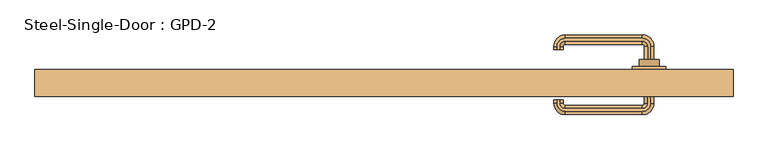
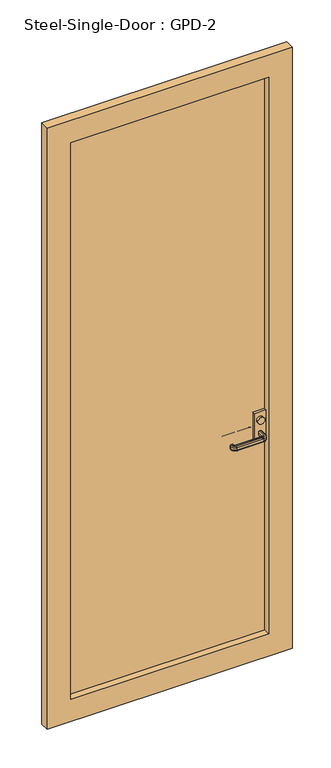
"""IFC4 building model written with IfcOpenShell, lengths in millimetres: door geometry, Steel-Single-Door : GPD-2."""

from ifc_helpers import new_model, si_unit, point, frame, frame_2d, origin, place, context, project, spatial, polyline, circle_curve, ellipse_curve, trimmed, segment, composite_curve, outline, extrude, source, transform, mapped, element, save
from ifc_brep_helpers import plane_surface, cylinder_surface, revolved_surface, advanced_brep


def steel_single_door_gpd_2_abf82ac7(model_context):
    return source(origin(), model_context, "Body", "SolidModel", [
        extrude(outline(composite_curve([segment(trimmed(circle_curve(frame_2d((1060.1793562, 395.0)), 15.0), [point((1060.1793562, 380.0))], [point((1060.1793562, 410.0))], False, "CARTESIAN"), True, "CONTINUOUS"), segment(trimmed(circle_curve(frame_2d((1060.1793562, 395.0)), 15.0), [point((1060.1793562, 410.0))], [point((1060.1793562, 380.0))], False, "CARTESIAN"), True, "CONTINUOUS")], self_intersect=False)), frame((0.0, 55.0, 0.0), z_axis=(0.0, 1.0, 0.0), x_axis=(0.0, 0.0, 1.0)), (0.0, 0.0, 1.0), 10.0),
        extrude(outline(composite_curve([segment(trimmed(circle_curve(frame_2d((1060.1793562, 395.0)), 15.0), [point((1060.1793562, 410.0))], [point((1060.1793562, 380.0))], False, "CARTESIAN"), True, "CONTINUOUS"), segment(trimmed(circle_curve(frame_2d((1060.1793562, 395.0)), 15.0), [point((1060.1793562, 380.0))], [point((1060.1793562, 410.0))], False, "CARTESIAN"), True, "CONTINUOUS")], self_intersect=False)), frame((0.0, 20.0, 0.0), z_axis=(0.0, 1.0, 0.0), x_axis=(0.0, 0.0, 1.0)), (0.0, 0.0, 1.0), 10.0),
        advanced_brep(
        [(397.0, 55.0, 1010.0), (393.0, 55.0, 1010.0), (388.0, 55.0, 1005.0), (388.0, 55.0, 995.0477623), (393.0, 55.0, 990.0477623), (397.0, 55.0, 990.0477623), (402.0, 55.0, 995.0477623), (402.0, 55.0, 1005.0), (402.0, 85.0, 1005.0), (397.0, 85.0, 1010.0), (402.0, 85.0, 995.0477623), (397.0, 85.0, 990.0477623), (393.0, 85.0, 990.0477623), (385.0, 93.0, 990.0477623), (270.0, 93.0, 990.0477623), (262.0, 85.0, 990.0477623), (262.0, 80.0, 990.0477623), (258.0, 80.0, 990.0477623), (258.0, 85.0, 990.0477623), (270.0, 97.0, 990.0477623), (385.0, 97.0, 990.0477623), (388.0, 85.0, 995.0477623), (388.0, 85.0, 1005.0), (393.0, 85.0, 1010.0), (385.0, 97.0, 1010.0), (270.0, 97.0, 1010.0), (258.0, 85.0, 1010.0), (258.0, 80.0, 1010.0), (262.0, 80.0, 1010.0), (262.0, 85.0, 1010.0), (270.0, 93.0, 1010.0), (385.0, 93.0, 1010.0), (385.0, 102.0, 1005.0), (385.0, 102.0, 995.0477623), (385.0, 88.0, 995.0477623), (385.0, 88.0, 1005.0), (270.0, 102.0, 1005.0), (270.0, 102.0, 995.0477623), (270.0, 88.0, 995.0477623), (270.0, 88.0, 1005.0), (253.0, 85.0, 1005.0), (253.0, 85.0, 995.0477623), (267.0, 85.0, 995.0477623), (267.0, 85.0, 1005.0), (253.0, 80.0, 1005.0), (253.0, 80.0, 995.0477623), (267.0, 80.0, 995.0477623), (267.0, 80.0, 1005.0)],
        [
            (0, 1),
            (1, 2, circle_curve(frame((393.0, 55.0, 1005.0), z_axis=(0.0, -1.0, 0.0), x_axis=(1.0, 0.0, 0.0)), 5.0)),
            (2, 3),
            (3, 4, circle_curve(frame((393.0, 55.0, 995.0477623), z_axis=(0.0, -1.0, 0.0), x_axis=(1.0, 0.0, 0.0)), 5.0)),
            (4, 5),
            (5, 6, circle_curve(frame((397.0, 55.0, 995.0477623), z_axis=(0.0, -1.0, 0.0), x_axis=(1.0, 0.0, 0.0)), 5.0)),
            (6, 7),
            (7, 0, circle_curve(frame((397.0, 55.0, 1005.0), z_axis=(0.0, -1.0, 0.0), x_axis=(1.0, 0.0, 0.0)), 5.0)),
            (7, 8),
            (8, 9, circle_curve(frame((397.0, 85.0, 1005.0), z_axis=(0.0, -1.0, 0.0), x_axis=(1.0, 0.0, 0.0)), 5.0)),
            (9, 0),
            (6, 10),
            (10, 8),
            (5, 11),
            (11, 10, circle_curve(frame((397.0, 85.0, 995.0477623), z_axis=(0.0, -1.0, 0.0), x_axis=(1.0, 0.0, 0.0)), 5.0)),
            (4, 12),
            (12, 13, circle_curve(frame((385.0, 85.0, 990.0477623), z_axis=(0.0, 0.0, 1.0), x_axis=(1.0, 0.0, 0.0)), 8.0)),
            (13, 14),
            (14, 15, circle_curve(frame((270.0, 85.0, 990.0477623), z_axis=(0.0, 0.0, 1.0), x_axis=(0.0, 1.0, 0.0)), 8.0)),
            (15, 16),
            (16, 17),
            (17, 18),
            (18, 19, circle_curve(frame((270.0, 85.0, 990.0477623), z_axis=(0.0, 0.0, -1.0), x_axis=(0.0, 1.0, 0.0)), 12.0)),
            (19, 20),
            (20, 11, circle_curve(frame((385.0, 85.0, 990.0477623), z_axis=(0.0, 0.0, -1.0), x_axis=(1.0, 0.0, 0.0)), 12.0)),
            (3, 21),
            (21, 12, circle_curve(frame((393.0, 85.0, 995.0477623), z_axis=(0.0, -1.0, 0.0), x_axis=(1.0, 0.0, 0.0)), 5.0)),
            (2, 22),
            (22, 21),
            (1, 23),
            (23, 22, circle_curve(frame((393.0, 85.0, 1005.0), z_axis=(0.0, -1.0, 0.0), x_axis=(1.0, 0.0, 0.0)), 5.0)),
            (9, 24, circle_curve(frame((385.0, 85.0, 1010.0), z_axis=(0.0, 0.0, 1.0), x_axis=(1.0, 0.0, 0.0)), 12.0)),
            (24, 25),
            (25, 26, circle_curve(frame((270.0, 85.0, 1010.0), z_axis=(0.0, 0.0, 1.0), x_axis=(0.0, 1.0, 0.0)), 12.0)),
            (26, 27),
            (27, 28),
            (28, 29),
            (29, 30, circle_curve(frame((270.0, 85.0, 1010.0), z_axis=(0.0, 0.0, -1.0), x_axis=(0.0, 1.0, 0.0)), 8.0)),
            (30, 31),
            (31, 23, circle_curve(frame((385.0, 85.0, 1010.0), z_axis=(0.0, 0.0, -1.0), x_axis=(1.0, 0.0, 0.0)), 8.0)),
            (32, 24, circle_curve(frame((385.0, 97.0, 1005.0), z_axis=(1.0, 0.0, 0.0), x_axis=(0.0, 1.0, 0.0)), 5.0)),
            (8, 32, circle_curve(frame((385.0, 85.0, 1005.0), z_axis=(0.0, 0.0, 1.0), x_axis=(1.0, 0.0, 0.0)), 17.0)),
            (33, 32),
            (10, 33, circle_curve(frame((385.0, 85.0, 995.0477623), z_axis=(0.0, 0.0, 1.0), x_axis=(1.0, 0.0, 0.0)), 17.0)),
            (20, 33, circle_curve(frame((385.0, 97.0, 995.0477623), z_axis=(1.0, 0.0, 0.0), x_axis=(0.0, 1.0, 0.0)), 5.0)),
            (34, 13, circle_curve(frame((385.0, 93.0, 995.0477623), z_axis=(1.0, 0.0, 0.0), x_axis=(0.0, 1.0, 0.0)), 5.0)),
            (21, 34, circle_curve(frame((385.0, 85.0, 995.0477623), z_axis=(0.0, 0.0, 1.0), x_axis=(1.0, 0.0, 0.0)), 3.0)),
            (35, 34),
            (22, 35, circle_curve(frame((385.0, 85.0, 1005.0), z_axis=(0.0, 0.0, 1.0), x_axis=(1.0, 0.0, 0.0)), 3.0)),
            (31, 35, circle_curve(frame((385.0, 93.0, 1005.0), z_axis=(1.0, 0.0, 0.0), x_axis=(0.0, 1.0, 0.0)), 5.0)),
            (32, 36),
            (36, 25, circle_curve(frame((270.0, 97.0, 1005.0), z_axis=(1.0, 0.0, 0.0), x_axis=(0.0, 1.0, 0.0)), 5.0)),
            (33, 37),
            (37, 36),
            (19, 37, circle_curve(frame((270.0, 97.0, 995.0477623), z_axis=(1.0, 0.0, 0.0), x_axis=(0.0, 1.0, 0.0)), 5.0)),
            (34, 38),
            (38, 14, circle_curve(frame((270.0, 93.0, 995.0477623), z_axis=(1.0, 0.0, 0.0), x_axis=(0.0, 1.0, 0.0)), 5.0)),
            (35, 39),
            (39, 38),
            (30, 39, circle_curve(frame((270.0, 93.0, 1005.0), z_axis=(1.0, 0.0, 0.0), x_axis=(0.0, 1.0, 0.0)), 5.0)),
            (40, 26, circle_curve(frame((258.0, 85.0, 1005.0), z_axis=(0.0, 1.0, 0.0), x_axis=(-1.0, 0.0, 0.0)), 5.0)),
            (36, 40, circle_curve(frame((270.0, 85.0, 1005.0), z_axis=(0.0, 0.0, 1.0), x_axis=(0.0, 1.0, 0.0)), 17.0)),
            (41, 40),
            (37, 41, circle_curve(frame((270.0, 85.0, 995.0477623), z_axis=(0.0, 0.0, 1.0), x_axis=(0.0, 1.0, 0.0)), 17.0)),
            (18, 41, circle_curve(frame((258.0, 85.0, 995.0477623), z_axis=(0.0, 1.0, 0.0), x_axis=(-1.0, 0.0, 0.0)), 5.0)),
            (42, 15, circle_curve(frame((262.0, 85.0, 995.0477623), z_axis=(0.0, 1.0, 0.0), x_axis=(-1.0, 0.0, 0.0)), 5.0)),
            (38, 42, circle_curve(frame((270.0, 85.0, 995.0477623), z_axis=(0.0, 0.0, 1.0), x_axis=(0.0, 1.0, 0.0)), 3.0)),
            (43, 42),
            (39, 43, circle_curve(frame((270.0, 85.0, 1005.0), z_axis=(0.0, 0.0, 1.0), x_axis=(0.0, 1.0, 0.0)), 3.0)),
            (29, 43, circle_curve(frame((262.0, 85.0, 1005.0), z_axis=(0.0, 1.0, 0.0), x_axis=(-1.0, 0.0, 0.0)), 5.0)),
            (27, 44, circle_curve(frame((258.0, 80.0, 1005.0), z_axis=(0.0, -1.0, 0.0), x_axis=(-1.0, 0.0, 0.0)), 5.0)),
            (44, 45),
            (45, 17, circle_curve(frame((258.0, 80.0, 995.0477623), z_axis=(0.0, -1.0, 0.0), x_axis=(-1.0, 0.0, 0.0)), 5.0)),
            (16, 46, circle_curve(frame((262.0, 80.0, 995.0477623), z_axis=(0.0, -1.0, 0.0), x_axis=(-1.0, 0.0, 0.0)), 5.0)),
            (46, 47),
            (47, 28, circle_curve(frame((262.0, 80.0, 1005.0), z_axis=(0.0, -1.0, 0.0), x_axis=(-1.0, 0.0, 0.0)), 5.0)),
            (40, 44),
            (41, 45),
            (42, 46),
            (43, 47),
        ],
        [
            plane_surface(frame((405.198039, 55.0, 1000.0), z_axis=(0.0, -1.0, 0.0), x_axis=(0.0, 0.0, 1.0))),
            cylinder_surface(frame((397.0, 55.0, 1005.0), z_axis=(0.0, -1.0, 0.0), x_axis=(1.0, 0.0, 0.0)), 5.0),
            plane_surface(frame((402.0, 55.0, 1005.0), z_axis=(1.0, 0.0, 0.0), x_axis=(0.0, 1.0, 0.0))),
            cylinder_surface(frame((397.0, 55.0, 995.0477623), z_axis=(0.0, -1.0, 0.0), x_axis=(1.0, 0.0, 0.0)), 5.0),
            plane_surface(frame((397.0, 55.0, 990.0477623), z_axis=(0.0, 0.0, -1.0), x_axis=(0.0, 1.0, 0.0))),
            cylinder_surface(frame((393.0, 55.0, 995.0477623), z_axis=(0.0, -1.0, 0.0), x_axis=(1.0, 0.0, 0.0)), 5.0),
            plane_surface(frame((388.0, 55.0, 995.0477623), z_axis=(-1.0, 0.0, 0.0), x_axis=(0.0, 1.0, 0.0))),
            cylinder_surface(frame((393.0, 55.0, 1005.0), z_axis=(0.0, -1.0, 0.0), x_axis=(1.0, 0.0, 0.0)), 5.0),
            plane_surface(frame((393.0, 55.0, 1010.0), z_axis=(0.0, 0.0, 1.0), x_axis=(0.0, 1.0, 0.0))),
            revolved_surface(trimmed(ellipse_curve(frame((397.0, 85.0, 1005.0), z_axis=(0.0, 1.0, 0.0), x_axis=(1.0, 0.0, 0.0)), 5.0, 5.0), [point((397.0, 85.0, 1010.0))], [point((402.0, 85.0, 1005.0))], True, "CARTESIAN"), (385.0, 85.0, 1000.0), (0.0, 0.0, -1.0)),
            cylinder_surface(frame((385.0, 85.0, 1000.0), z_axis=(0.0, 0.0, -1.0), x_axis=(1.0, 0.0, 0.0)), 17.0),
            revolved_surface(trimmed(ellipse_curve(frame((397.0, 85.0, 995.0477623), z_axis=(0.0, 1.0, 0.0), x_axis=(1.0, 0.0, 0.0)), 5.0, 5.0), [point((402.0, 85.0, 995.0477623))], [point((397.0, 85.0, 990.0477623))], True, "CARTESIAN"), (385.0, 85.0, 1000.0), (0.0, 0.0, -1.0)),
            revolved_surface(trimmed(ellipse_curve(frame((393.0, 85.0, 995.0477623), z_axis=(0.0, 1.0, 0.0), x_axis=(1.0, 0.0, 0.0)), 5.0, 5.0), [point((393.0, 85.0, 990.0477623))], [point((388.0, 85.0, 995.0477623))], True, "CARTESIAN"), (385.0, 85.0, 1000.0), (0.0, 0.0, -1.0)),
            revolved_surface(polyline([(388.0, 85.0, 995.0477623), (388.0, 85.0, 1005.0)]), (385.0, 85.0, 1000.0), (0.0, 0.0, -1.0)),
            revolved_surface(trimmed(ellipse_curve(frame((393.0, 85.0, 1005.0), z_axis=(0.0, 1.0, 0.0), x_axis=(1.0, 0.0, 0.0)), 5.0, 5.0), [point((388.0, 85.0, 1005.0))], [point((393.0, 85.0, 1010.0))], True, "CARTESIAN"), (385.0, 85.0, 1000.0), (0.0, 0.0, -1.0)),
            cylinder_surface(frame((385.0, 97.0, 1005.0), z_axis=(1.0, 0.0, 0.0), x_axis=(0.0, 1.0, 0.0)), 5.0),
            plane_surface(frame((385.0, 102.0, 1005.0), z_axis=(0.0, 1.0, 0.0), x_axis=(-1.0, 0.0, 0.0))),
            cylinder_surface(frame((385.0, 97.0, 995.0477623), z_axis=(1.0, 0.0, 0.0), x_axis=(0.0, 1.0, 0.0)), 5.0),
            cylinder_surface(frame((385.0, 93.0, 995.0477623), z_axis=(1.0, 0.0, 0.0), x_axis=(0.0, 1.0, 0.0)), 5.0),
            plane_surface(frame((385.0, 88.0, 995.0477623), z_axis=(0.0, -1.0, 0.0), x_axis=(-1.0, 0.0, 0.0))),
            cylinder_surface(frame((385.0, 93.0, 1005.0), z_axis=(1.0, 0.0, 0.0), x_axis=(0.0, 1.0, 0.0)), 5.0),
            revolved_surface(trimmed(ellipse_curve(frame((270.0, 97.0, 1005.0), z_axis=(-1.0, 0.0, 0.0), x_axis=(0.0, 1.0, 0.0)), 5.0, 5.0), [point((270.0, 97.0, 1010.0))], [point((270.0, 102.0, 1005.0))], True, "CARTESIAN"), (270.0, 85.0, 1000.0), (0.0, 0.0, -1.0)),
            cylinder_surface(frame((270.0, 85.0, 1000.0), z_axis=(0.0, 0.0, -1.0), x_axis=(0.0, 1.0, 0.0)), 17.0),
            revolved_surface(trimmed(ellipse_curve(frame((270.0, 97.0, 995.0477623), z_axis=(-1.0, 0.0, 0.0), x_axis=(0.0, 1.0, 0.0)), 5.0, 5.0), [point((270.0, 102.0, 995.0477623))], [point((270.0, 97.0, 990.0477623))], True, "CARTESIAN"), (270.0, 85.0, 1000.0), (0.0, 0.0, -1.0)),
            revolved_surface(trimmed(ellipse_curve(frame((270.0, 93.0, 995.0477623), z_axis=(-1.0, 0.0, 0.0), x_axis=(0.0, 1.0, 0.0)), 5.0, 5.0), [point((270.0, 93.0, 990.0477623))], [point((270.0, 88.0, 995.0477623))], True, "CARTESIAN"), (270.0, 85.0, 1000.0), (0.0, 0.0, -1.0)),
            revolved_surface(polyline([(270.0, 88.0, 995.0477623), (270.0, 88.0, 1005.0)]), (270.0, 85.0, 1000.0), (0.0, 0.0, -1.0)),
            revolved_surface(trimmed(ellipse_curve(frame((270.0, 93.0, 1005.0), z_axis=(-1.0, 0.0, 0.0), x_axis=(0.0, 1.0, 0.0)), 5.0, 5.0), [point((270.0, 88.0, 1005.0))], [point((270.0, 93.0, 1010.0))], True, "CARTESIAN"), (270.0, 85.0, 1000.0), (0.0, 0.0, -1.0)),
            plane_surface(frame((270.198039, 80.0, 1000.0), z_axis=(0.0, -1.0, 0.0), x_axis=(0.0, 0.0, -1.0))),
            cylinder_surface(frame((258.0, 85.0, 1005.0), z_axis=(0.0, 1.0, 0.0), x_axis=(-1.0, 0.0, 0.0)), 5.0),
            plane_surface(frame((253.0, 85.0, 1005.0), z_axis=(-1.0, 0.0, 0.0), x_axis=(0.0, -1.0, 0.0))),
            cylinder_surface(frame((258.0, 85.0, 995.0477623), z_axis=(0.0, 1.0, 0.0), x_axis=(-1.0, 0.0, 0.0)), 5.0),
            cylinder_surface(frame((262.0, 85.0, 995.0477623), z_axis=(0.0, 1.0, 0.0), x_axis=(-1.0, 0.0, 0.0)), 5.0),
            plane_surface(frame((267.0, 85.0, 995.0477623), z_axis=(1.0, 0.0, 0.0), x_axis=(0.0, -1.0, 0.0))),
            cylinder_surface(frame((262.0, 85.0, 1005.0), z_axis=(0.0, 1.0, 0.0), x_axis=(-1.0, 0.0, 0.0)), 5.0),
        ],
        [
            (0, [[1, 2, 3, 4, 5, 6, 7, 8]]),
            (1, [[9, 10, 11, -8]]),
            (2, [[12, 13, -9, -7]]),
            (3, [[14, 15, -12, -6]]),
            (4, [[16, 17, 18, 19, 20, 21, 22, 23, 24, 25, -14, -5]]),
            (5, [[26, 27, -16, -4]]),
            (6, [[28, 29, -26, -3]]),
            (7, [[30, 31, -28, -2]]),
            (8, [[-11, 32, 33, 34, 35, 36, 37, 38, 39, 40, -30, -1]]),
            (9, [[41, -32, -10, 42]]),
            (10, [[43, -42, -13, 44]]),
            (11, [[45, -44, -15, -25]]),
            (12, [[46, -17, -27, 47]]),
            (13, [[48, -47, -29, 49]]),
            (14, [[50, -49, -31, -40]]),
            (15, [[51, 52, -33, -41]]),
            (16, [[53, 54, -51, -43]]),
            (17, [[-24, 55, -53, -45]]),
            (18, [[56, 57, -18, -46]]),
            (19, [[58, 59, -56, -48]]),
            (20, [[-39, 60, -58, -50]]),
            (21, [[61, -34, -52, 62]]),
            (22, [[63, -62, -54, 64]]),
            (23, [[65, -64, -55, -23]]),
            (24, [[66, -19, -57, 67]]),
            (25, [[68, -67, -59, 69]]),
            (26, [[70, -69, -60, -38]]),
            (27, [[71, 72, 73, -21, 74, 75, 76, -36]]),
            (28, [[77, -71, -35, -61]]),
            (29, [[78, -72, -77, -63]]),
            (30, [[-22, -73, -78, -65]]),
            (31, [[79, -74, -20, -66]]),
            (32, [[80, -75, -79, -68]]),
            (33, [[-37, -76, -80, -70]]),
        ],
    ),
        advanced_brep(
        [(393.0, 30.0, 990.0), (388.0, 30.0, 995.0), (388.0, 30.0, 1005.0), (393.0, 30.0, 1010.0), (397.0, 30.0, 1010.0), (402.0, 30.0, 1005.0), (402.0, 30.0, 995.0), (397.0, 30.0, 990.0), (397.0, 0.0, 990.0), (385.0, -12.0, 990.0), (270.0, -12.0, 990.0), (258.0, 0.0, 990.0), (258.0, 5.0, 990.0), (262.0, 5.0, 990.0), (262.0, 0.0, 990.0), (270.0, -8.0, 990.0), (385.0, -8.0, 990.0), (393.0, 0.0, 990.0), (402.0, 0.0, 995.0), (402.0, 0.0, 1005.0), (397.0, 0.0, 1010.0), (393.0, 0.0, 1010.0), (385.0, -8.0, 1010.0), (270.0, -8.0, 1010.0), (262.0, 0.0, 1010.0), (262.0, 5.0, 1010.0), (258.0, 5.0, 1010.0), (258.0, 0.0, 1010.0), (270.0, -12.0, 1010.0), (385.0, -12.0, 1010.0), (388.0, 0.0, 1005.0), (388.0, 0.0, 995.0), (385.0, -17.0, 995.0), (385.0, -17.0, 1005.0), (385.0, -3.0, 1005.0), (385.0, -3.0, 995.0), (270.0, -17.0, 995.0), (270.0, -17.0, 1005.0), (270.0, -3.0, 1005.0), (270.0, -3.0, 995.0), (253.0, 0.0, 995.0), (253.0, 0.0, 1005.0), (267.0, 0.0, 1005.0), (267.0, 0.0, 995.0), (253.0, 5.0, 995.0), (253.0, 5.0, 1005.0), (267.0, 5.0, 1005.0), (267.0, 5.0, 995.0)],
        [
            (0, 1, circle_curve(frame((393.0, 30.0, 995.0), z_axis=(0.0, 1.0, 0.0), x_axis=(-1.0, 0.0, 0.0)), 5.0)),
            (1, 2),
            (2, 3, circle_curve(frame((393.0, 30.0, 1005.0), z_axis=(0.0, 1.0, 0.0), x_axis=(-1.0, 0.0, 0.0)), 5.0)),
            (3, 4),
            (4, 5, circle_curve(frame((397.0, 30.0, 1005.0), z_axis=(0.0, 1.0, 0.0), x_axis=(-1.0, 0.0, 0.0)), 5.0)),
            (5, 6),
            (6, 7, circle_curve(frame((397.0, 30.0, 995.0), z_axis=(0.0, 1.0, 0.0), x_axis=(-1.0, 0.0, 0.0)), 5.0)),
            (7, 0),
            (7, 8),
            (8, 9, circle_curve(frame((385.0, 0.0, 990.0), z_axis=(0.0, 0.0, -1.0), x_axis=(1.0, 0.0, 0.0)), 12.0)),
            (9, 10),
            (10, 11, circle_curve(frame((270.0, 0.0, 990.0), z_axis=(0.0, 0.0, -1.0), x_axis=(0.0, -1.0, 0.0)), 12.0)),
            (11, 12),
            (12, 13),
            (13, 14),
            (14, 15, circle_curve(frame((270.0, 0.0, 990.0), z_axis=(0.0, 0.0, 1.0), x_axis=(0.0, -1.0, 0.0)), 8.0)),
            (15, 16),
            (16, 17, circle_curve(frame((385.0, 0.0, 990.0), z_axis=(0.0, 0.0, 1.0), x_axis=(1.0, 0.0, 0.0)), 8.0)),
            (17, 0),
            (6, 18),
            (18, 8, circle_curve(frame((397.0, 0.0, 995.0), z_axis=(0.0, 1.0, 0.0), x_axis=(-1.0, 0.0, 0.0)), 5.0)),
            (5, 19),
            (19, 18),
            (4, 20),
            (20, 19, circle_curve(frame((397.0, 0.0, 1005.0), z_axis=(0.0, 1.0, 0.0), x_axis=(-1.0, 0.0, 0.0)), 5.0)),
            (3, 21),
            (21, 22, circle_curve(frame((385.0, 0.0, 1010.0), z_axis=(0.0, 0.0, -1.0), x_axis=(1.0, 0.0, 0.0)), 8.0)),
            (22, 23),
            (23, 24, circle_curve(frame((270.0, 0.0, 1010.0), z_axis=(0.0, 0.0, -1.0), x_axis=(0.0, -1.0, 0.0)), 8.0)),
            (24, 25),
            (25, 26),
            (26, 27),
            (27, 28, circle_curve(frame((270.0, 0.0, 1010.0), z_axis=(0.0, 0.0, 1.0), x_axis=(0.0, -1.0, 0.0)), 12.0)),
            (28, 29),
            (29, 20, circle_curve(frame((385.0, 0.0, 1010.0), z_axis=(0.0, 0.0, 1.0), x_axis=(1.0, 0.0, 0.0)), 12.0)),
            (2, 30),
            (30, 21, circle_curve(frame((393.0, 0.0, 1005.0), z_axis=(0.0, 1.0, 0.0), x_axis=(-1.0, 0.0, 0.0)), 5.0)),
            (1, 31),
            (31, 30),
            (17, 31, circle_curve(frame((393.0, 0.0, 995.0), z_axis=(0.0, 1.0, 0.0), x_axis=(-1.0, 0.0, 0.0)), 5.0)),
            (32, 9, circle_curve(frame((385.0, -12.0, 995.0), z_axis=(1.0, 0.0, 0.0), x_axis=(0.0, 1.0, 0.0)), 5.0)),
            (18, 32, circle_curve(frame((385.0, 0.0, 995.0), z_axis=(0.0, 0.0, -1.0), x_axis=(1.0, 0.0, 0.0)), 17.0)),
            (33, 32),
            (19, 33, circle_curve(frame((385.0, 0.0, 1005.0), z_axis=(0.0, 0.0, -1.0), x_axis=(1.0, 0.0, 0.0)), 17.0)),
            (29, 33, circle_curve(frame((385.0, -12.0, 1005.0), z_axis=(1.0, 0.0, 0.0), x_axis=(0.0, 1.0, 0.0)), 5.0)),
            (34, 22, circle_curve(frame((385.0, -8.0, 1005.0), z_axis=(1.0, 0.0, 0.0), x_axis=(0.0, 1.0, 0.0)), 5.0)),
            (30, 34, circle_curve(frame((385.0, 0.0, 1005.0), z_axis=(0.0, 0.0, -1.0), x_axis=(1.0, 0.0, 0.0)), 3.0)),
            (35, 34),
            (31, 35, circle_curve(frame((385.0, 0.0, 995.0), z_axis=(0.0, 0.0, -1.0), x_axis=(1.0, 0.0, 0.0)), 3.0)),
            (16, 35, circle_curve(frame((385.0, -8.0, 995.0), z_axis=(1.0, 0.0, 0.0), x_axis=(0.0, 1.0, 0.0)), 5.0)),
            (32, 36),
            (36, 10, circle_curve(frame((270.0, -12.0, 995.0), z_axis=(1.0, 0.0, 0.0), x_axis=(0.0, 1.0, 0.0)), 5.0)),
            (33, 37),
            (37, 36),
            (28, 37, circle_curve(frame((270.0, -12.0, 1005.0), z_axis=(1.0, 0.0, 0.0), x_axis=(0.0, 1.0, 0.0)), 5.0)),
            (34, 38),
            (38, 23, circle_curve(frame((270.0, -8.0, 1005.0), z_axis=(1.0, 0.0, 0.0), x_axis=(0.0, 1.0, 0.0)), 5.0)),
            (35, 39),
            (39, 38),
            (15, 39, circle_curve(frame((270.0, -8.0, 995.0), z_axis=(1.0, 0.0, 0.0), x_axis=(0.0, 1.0, 0.0)), 5.0)),
            (40, 11, circle_curve(frame((258.0, 0.0, 995.0), z_axis=(0.0, -1.0, 0.0), x_axis=(1.0, 0.0, 0.0)), 5.0)),
            (36, 40, circle_curve(frame((270.0, 0.0, 995.0), z_axis=(0.0, 0.0, -1.0), x_axis=(0.0, -1.0, 0.0)), 17.0)),
            (41, 40),
            (37, 41, circle_curve(frame((270.0, 0.0, 1005.0), z_axis=(0.0, 0.0, -1.0), x_axis=(0.0, -1.0, 0.0)), 17.0)),
            (27, 41, circle_curve(frame((258.0, 0.0, 1005.0), z_axis=(0.0, -1.0, 0.0), x_axis=(1.0, 0.0, 0.0)), 5.0)),
            (42, 24, circle_curve(frame((262.0, 0.0, 1005.0), z_axis=(0.0, -1.0, 0.0), x_axis=(1.0, 0.0, 0.0)), 5.0)),
            (38, 42, circle_curve(frame((270.0, 0.0, 1005.0), z_axis=(0.0, 0.0, -1.0), x_axis=(0.0, -1.0, 0.0)), 3.0)),
            (43, 42),
            (39, 43, circle_curve(frame((270.0, 0.0, 995.0), z_axis=(0.0, 0.0, -1.0), x_axis=(0.0, -1.0, 0.0)), 3.0)),
            (14, 43, circle_curve(frame((262.0, 0.0, 995.0), z_axis=(0.0, -1.0, 0.0), x_axis=(1.0, 0.0, 0.0)), 5.0)),
            (12, 44, circle_curve(frame((258.0, 5.0, 995.0), z_axis=(0.0, 1.0, 0.0), x_axis=(1.0, 0.0, 0.0)), 5.0)),
            (44, 45),
            (45, 26, circle_curve(frame((258.0, 5.0, 1005.0), z_axis=(0.0, 1.0, 0.0), x_axis=(1.0, 0.0, 0.0)), 5.0)),
            (25, 46, circle_curve(frame((262.0, 5.0, 1005.0), z_axis=(0.0, 1.0, 0.0), x_axis=(1.0, 0.0, 0.0)), 5.0)),
            (46, 47),
            (47, 13, circle_curve(frame((262.0, 5.0, 995.0), z_axis=(0.0, 1.0, 0.0), x_axis=(1.0, 0.0, 0.0)), 5.0)),
            (40, 44),
            (41, 45),
            (42, 46),
            (43, 47),
        ],
        [
            plane_surface(frame((405.198039, 30.0, 1000.0), z_axis=(0.0, 1.0, 0.0), x_axis=(0.0, 0.0, -1.0))),
            plane_surface(frame((393.0, 30.0, 990.0), z_axis=(0.0, 0.0, -1.0), x_axis=(0.0, -1.0, 0.0))),
            cylinder_surface(frame((397.0, 30.0, 995.0), z_axis=(0.0, 1.0, 0.0), x_axis=(-1.0, 0.0, 0.0)), 5.0),
            plane_surface(frame((402.0, 30.0, 995.0), z_axis=(1.0, 0.0, 0.0), x_axis=(0.0, -1.0, 0.0))),
            cylinder_surface(frame((397.0, 30.0, 1005.0), z_axis=(0.0, 1.0, 0.0), x_axis=(-1.0, 0.0, 0.0)), 5.0),
            plane_surface(frame((397.0, 30.0, 1010.0), z_axis=(0.0, 0.0, 1.0), x_axis=(0.0, -1.0, 0.0))),
            cylinder_surface(frame((393.0, 30.0, 1005.0), z_axis=(0.0, 1.0, 0.0), x_axis=(-1.0, 0.0, 0.0)), 5.0),
            plane_surface(frame((388.0, 30.0, 1005.0), z_axis=(-1.0, 0.0, 0.0), x_axis=(0.0, -1.0, 0.0))),
            cylinder_surface(frame((393.0, 30.0, 995.0), z_axis=(0.0, 1.0, 0.0), x_axis=(-1.0, 0.0, 0.0)), 5.0),
            revolved_surface(trimmed(ellipse_curve(frame((397.0, 0.0, 995.0), z_axis=(0.0, -1.0, 0.0), x_axis=(-1.0, 0.0, 0.0)), 5.0, 5.0), [point((397.0, 0.0, 990.0))], [point((402.0, 0.0, 995.0))], True, "CARTESIAN"), (385.0, 0.0, 1000.0), (0.0, 0.0, 1.0)),
            cylinder_surface(frame((385.0, 0.0, 1000.0), z_axis=(0.0, 0.0, 1.0), x_axis=(1.0, 0.0, 0.0)), 17.0),
            revolved_surface(trimmed(ellipse_curve(frame((397.0, 0.0, 1005.0), z_axis=(0.0, -1.0, 0.0), x_axis=(-1.0, 0.0, 0.0)), 5.0, 5.0), [point((402.0, 0.0, 1005.0))], [point((397.0, 0.0, 1010.0))], True, "CARTESIAN"), (385.0, 0.0, 1000.0), (0.0, 0.0, 1.0)),
            revolved_surface(trimmed(ellipse_curve(frame((393.0, 0.0, 1005.0), z_axis=(0.0, -1.0, 0.0), x_axis=(-1.0, 0.0, 0.0)), 5.0, 5.0), [point((393.0, 0.0, 1010.0))], [point((388.0, 0.0, 1005.0))], True, "CARTESIAN"), (385.0, 0.0, 1000.0), (0.0, 0.0, 1.0)),
            revolved_surface(polyline([(388.0, 0.0, 1005.0), (388.0, 0.0, 995.0)]), (385.0, 0.0, 1000.0), (0.0, 0.0, 1.0)),
            revolved_surface(trimmed(ellipse_curve(frame((393.0, 0.0, 995.0), z_axis=(0.0, -1.0, 0.0), x_axis=(-1.0, 0.0, 0.0)), 5.0, 5.0), [point((388.0, 0.0, 995.0))], [point((393.0, 0.0, 990.0))], True, "CARTESIAN"), (385.0, 0.0, 1000.0), (0.0, 0.0, 1.0)),
            cylinder_surface(frame((385.0, -12.0, 995.0), z_axis=(1.0, 0.0, 0.0), x_axis=(0.0, 1.0, 0.0)), 5.0),
            plane_surface(frame((385.0, -17.0, 995.0), z_axis=(0.0, -1.0, 0.0), x_axis=(-1.0, 0.0, 0.0))),
            cylinder_surface(frame((385.0, -12.0, 1005.0), z_axis=(1.0, 0.0, 0.0), x_axis=(0.0, 1.0, 0.0)), 5.0),
            cylinder_surface(frame((385.0, -8.0, 1005.0), z_axis=(1.0, 0.0, 0.0), x_axis=(0.0, 1.0, 0.0)), 5.0),
            plane_surface(frame((385.0, -3.0, 1005.0), z_axis=(0.0, 1.0, 0.0), x_axis=(-1.0, 0.0, 0.0))),
            cylinder_surface(frame((385.0, -8.0, 995.0), z_axis=(1.0, 0.0, 0.0), x_axis=(0.0, 1.0, 0.0)), 5.0),
            revolved_surface(trimmed(ellipse_curve(frame((270.0, -12.0, 995.0), z_axis=(-1.0, 0.0, 0.0), x_axis=(0.0, 1.0, 0.0)), 5.0, 5.0), [point((270.0, -12.0, 990.0))], [point((270.0, -17.0, 995.0))], True, "CARTESIAN"), (270.0, 0.0, 1000.0), (0.0, 0.0, 1.0)),
            cylinder_surface(frame((270.0, 0.0, 1000.0), z_axis=(0.0, 0.0, 1.0), x_axis=(0.0, -1.0, 0.0)), 17.0),
            revolved_surface(trimmed(ellipse_curve(frame((270.0, -12.0, 1005.0), z_axis=(-1.0, 0.0, 0.0), x_axis=(0.0, 1.0, 0.0)), 5.0, 5.0), [point((270.0, -17.0, 1005.0))], [point((270.0, -12.0, 1010.0))], True, "CARTESIAN"), (270.0, 0.0, 1000.0), (0.0, 0.0, 1.0)),
            revolved_surface(trimmed(ellipse_curve(frame((270.0, -8.0, 1005.0), z_axis=(-1.0, 0.0, 0.0), x_axis=(0.0, 1.0, 0.0)), 5.0, 5.0), [point((270.0, -8.0, 1010.0))], [point((270.0, -3.0, 1005.0))], True, "CARTESIAN"), (270.0, 0.0, 1000.0), (0.0, 0.0, 1.0)),
            revolved_surface(polyline([(270.0, -3.0, 1005.0), (270.0, -3.0, 995.0)]), (270.0, 0.0, 1000.0), (0.0, 0.0, 1.0)),
            revolved_surface(trimmed(ellipse_curve(frame((270.0, -8.0, 995.0), z_axis=(-1.0, 0.0, 0.0), x_axis=(0.0, 1.0, 0.0)), 5.0, 5.0), [point((270.0, -3.0, 995.0))], [point((270.0, -8.0, 990.0))], True, "CARTESIAN"), (270.0, 0.0, 1000.0), (0.0, 0.0, 1.0)),
            plane_surface(frame((270.198039, 5.0, 1000.0), z_axis=(0.0, 1.0, 0.0), x_axis=(0.0, 0.0, 1.0))),
            cylinder_surface(frame((258.0, 0.0, 995.0), z_axis=(0.0, -1.0, 0.0), x_axis=(1.0, 0.0, 0.0)), 5.0),
            plane_surface(frame((253.0, 0.0, 995.0), z_axis=(-1.0, 0.0, 0.0), x_axis=(0.0, 1.0, 0.0))),
            cylinder_surface(frame((258.0, 0.0, 1005.0), z_axis=(0.0, -1.0, 0.0), x_axis=(1.0, 0.0, 0.0)), 5.0),
            cylinder_surface(frame((262.0, 0.0, 1005.0), z_axis=(0.0, -1.0, 0.0), x_axis=(1.0, 0.0, 0.0)), 5.0),
            plane_surface(frame((267.0, 0.0, 1005.0), z_axis=(1.0, 0.0, 0.0), x_axis=(0.0, 1.0, 0.0))),
            cylinder_surface(frame((262.0, 0.0, 995.0), z_axis=(0.0, -1.0, 0.0), x_axis=(1.0, 0.0, 0.0)), 5.0),
        ],
        [
            (0, [[1, 2, 3, 4, 5, 6, 7, 8]]),
            (1, [[9, 10, 11, 12, 13, 14, 15, 16, 17, 18, 19, -8]]),
            (2, [[20, 21, -9, -7]]),
            (3, [[22, 23, -20, -6]]),
            (4, [[24, 25, -22, -5]]),
            (5, [[26, 27, 28, 29, 30, 31, 32, 33, 34, 35, -24, -4]]),
            (6, [[36, 37, -26, -3]]),
            (7, [[38, 39, -36, -2]]),
            (8, [[-19, 40, -38, -1]]),
            (9, [[41, -10, -21, 42]]),
            (10, [[43, -42, -23, 44]]),
            (11, [[45, -44, -25, -35]]),
            (12, [[46, -27, -37, 47]]),
            (13, [[48, -47, -39, 49]]),
            (14, [[50, -49, -40, -18]]),
            (15, [[51, 52, -11, -41]]),
            (16, [[53, 54, -51, -43]]),
            (17, [[-34, 55, -53, -45]]),
            (18, [[56, 57, -28, -46]]),
            (19, [[58, 59, -56, -48]]),
            (20, [[-17, 60, -58, -50]]),
            (21, [[61, -12, -52, 62]]),
            (22, [[63, -62, -54, 64]]),
            (23, [[65, -64, -55, -33]]),
            (24, [[66, -29, -57, 67]]),
            (25, [[68, -67, -59, 69]]),
            (26, [[70, -69, -60, -16]]),
            (27, [[-14, 71, 72, 73, -31, 74, 75, 76]]),
            (28, [[77, -71, -13, -61]]),
            (29, [[78, -72, -77, -63]]),
            (30, [[-32, -73, -78, -65]]),
            (31, [[79, -74, -30, -66]]),
            (32, [[80, -75, -79, -68]]),
            (33, [[-15, -76, -80, -70]]),
        ],
    ),
        extrude(outline(polyline([(370.0, 45.0), (370.0, 55.0), (420.0, 55.0), (420.0, 45.0), (370.0, 45.0)])), frame((0.0, 0.0, 975.0), z_axis=(0.0, 0.0, 1.0), x_axis=(1.0, 0.0, 0.0)), (0.0, 0.0, 1.0), 120.1793562),
        extrude(outline(polyline([(370.0, 30.0), (370.0, 40.0), (420.0, 40.0), (420.0, 30.0), (370.0, 30.0)])), frame((0.0, 0.0, 975.0), z_axis=(0.0, 0.0, 1.0), x_axis=(1.0, 0.0, 0.0)), (0.0, 0.0, 1.0), 120.1793562),
        extrude(outline(polyline([(-420.0, 45.0), (420.0, 45.0), (420.0, 40.0), (-420.0, 40.0), (-420.0, 45.0)])), frame((0.0, 0.0, 100.0), z_axis=(0.0, 0.0, 1.0), x_axis=(1.0, 0.0, 0.0)), (0.0, 0.0, 1.0), 2500.0),
        extrude(outline(polyline([(0.0, -520.0), (0.0, 520.0), (2700.0, 520.0), (2700.0, -520.0), (0.0, -520.0)]), holes=[polyline([(100.0, -420.0), (2600.0, -420.0), (2600.0, 420.0), (100.0, 420.0), (100.0, -420.0)])]), frame((0.0, 10.0, 0.0), z_axis=(0.0, 1.0, 0.0), x_axis=(0.0, 0.0, 1.0)), (0.0, 0.0, 1.0), 40.0),
    ])


if __name__ == "__main__":
    model = new_model("IFC4")
    model_context = context("Model", 3, world=origin())
    ifc_project = project(units=[si_unit("LENGTHUNIT", "METRE", prefix="MILLI")], contexts=[model_context])
    site = spatial("IfcSite", under=ifc_project)
    building = spatial("IfcBuilding", under=site)
    placement = place(None, origin())
    steel_single_door_gpd_2_shape = steel_single_door_gpd_2_abf82ac7(model_context)
    element("IfcDoor", 1, ObjectType="Steel-Single-Door : GPD-2", at=placement, inside=building, context=model_context, shape_type="MappedRepresentation", body=[
        mapped(steel_single_door_gpd_2_shape, transform((0.0, 0.0, 0.0), x_axis=(1.0, 0.0, 0.0), y_axis=(0.0, 1.0, 0.0), z_axis=(0.0, 0.0, 1.0))),
    ])
    save(model, "model.ifc")
